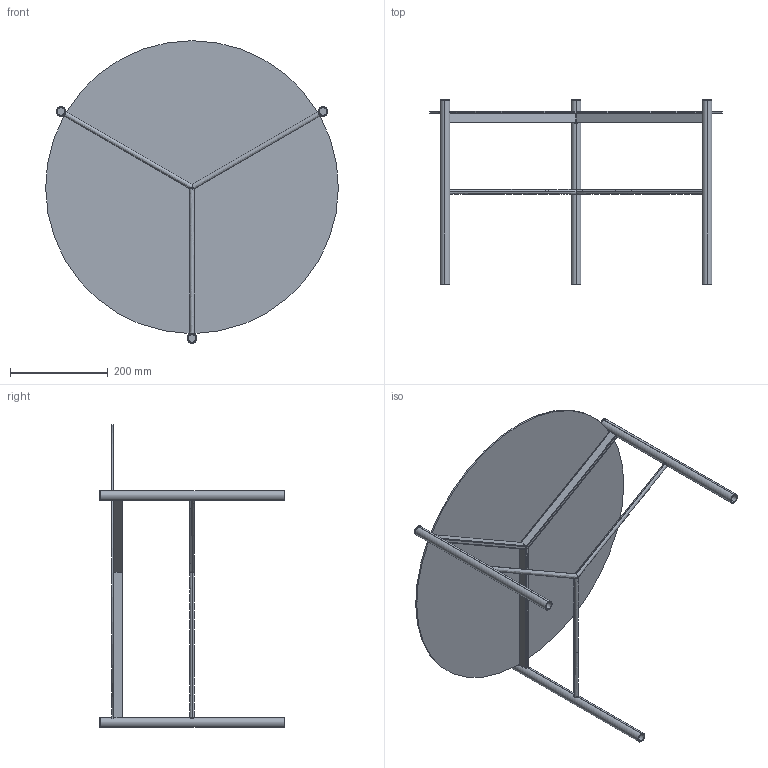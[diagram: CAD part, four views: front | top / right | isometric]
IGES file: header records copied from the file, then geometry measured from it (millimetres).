
Start section: SolidWorks IGES file using analytic representation for surfaces
Global section: file name: Y:\eforma\TECNICO\SOLIDWORKS\E-FORMA\2-TAVOLINI\JACK\02 parts\J201S.IGS; native system: SolidWorks 2022; preprocessor: SolidWorks 2022; author: eforma.tech; date: 240806.132910; units: millimetre
Bounding box: 599.97 x 379 x 620.07 mm (x, y, z)
Volume: 1048730.3 mm3; surface area: 843895.5 mm2
Topology: 13 solids, 13 shells, 121 faces, 287 edges, 190 vertices
Faces by surface type: revolution 71, plane 50
